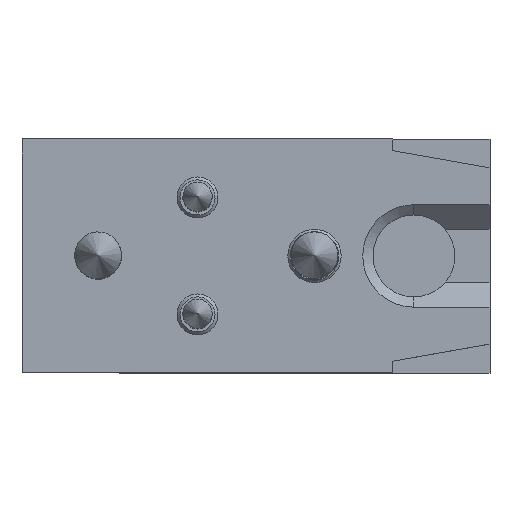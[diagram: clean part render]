
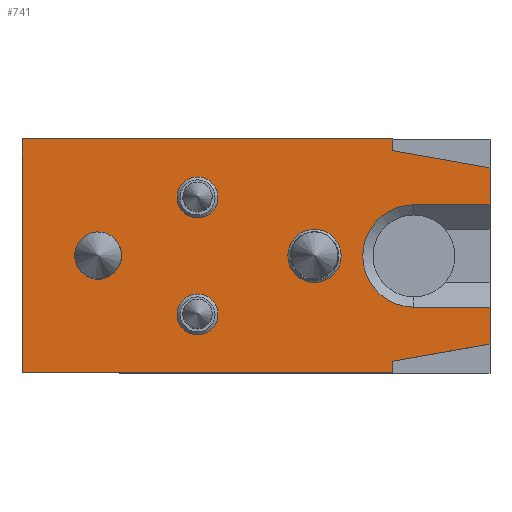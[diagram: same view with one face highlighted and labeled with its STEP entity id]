
A CAD part, top view. The second image highlights one B-rep face of the part: STEP entity #741.
In plain terms, the highlighted planar face has unit normal (0, 0, 1) as drawn and (0, 0, -1) by its records, which use the part's own axes.
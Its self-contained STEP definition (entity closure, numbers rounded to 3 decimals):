
#104=CIRCLE('',#861,8.75);
#105=CIRCLE('',#862,3.5);
#106=CIRCLE('',#863,3.5);
#107=CIRCLE('',#864,4.55);
#108=CIRCLE('',#865,4.);
#177=ORIENTED_EDGE('',*,*,#301,.F.);
#178=ORIENTED_EDGE('',*,*,#330,.T.);
#179=ORIENTED_EDGE('',*,*,#331,.T.);
#180=ORIENTED_EDGE('',*,*,#332,.T.);
#181=ORIENTED_EDGE('',*,*,#304,.F.);
#182=ORIENTED_EDGE('',*,*,#333,.T.);
#183=ORIENTED_EDGE('',*,*,#334,.T.);
#184=ORIENTED_EDGE('',*,*,#316,.F.);
#185=ORIENTED_EDGE('',*,*,#313,.F.);
#186=ORIENTED_EDGE('',*,*,#311,.F.);
#187=ORIENTED_EDGE('',*,*,#335,.T.);
#188=ORIENTED_EDGE('',*,*,#336,.T.);
#189=ORIENTED_EDGE('',*,*,#337,.T.);
#190=ORIENTED_EDGE('',*,*,#338,.T.);
#191=ORIENTED_EDGE('',*,*,#339,.T.);
#192=ORIENTED_EDGE('',*,*,#340,.T.);
#301=EDGE_CURVE('',#381,#382,#448,.T.);
#304=EDGE_CURVE('',#384,#385,#451,.T.);
#311=EDGE_CURVE('',#391,#392,#458,.T.);
#313=EDGE_CURVE('',#392,#393,#460,.T.);
#316=EDGE_CURVE('',#393,#395,#463,.T.);
#330=EDGE_CURVE('',#381,#405,#472,.T.);
#331=EDGE_CURVE('',#405,#406,#104,.T.);
#332=EDGE_CURVE('',#406,#385,#473,.T.);
#333=EDGE_CURVE('',#384,#407,#474,.T.);
#334=EDGE_CURVE('',#407,#395,#475,.T.);
#335=EDGE_CURVE('',#391,#408,#476,.T.);
#336=EDGE_CURVE('',#408,#382,#477,.T.);
#337=EDGE_CURVE('',#409,#409,#105,.T.);
#338=EDGE_CURVE('',#410,#410,#106,.T.);
#339=EDGE_CURVE('',#411,#411,#107,.T.);
#340=EDGE_CURVE('',#412,#412,#108,.T.);
#381=VERTEX_POINT('',#1209);
#382=VERTEX_POINT('',#1211);
#384=VERTEX_POINT('',#1217);
#385=VERTEX_POINT('',#1218);
#391=VERTEX_POINT('',#1231);
#392=VERTEX_POINT('',#1233);
#393=VERTEX_POINT('',#1237);
#395=VERTEX_POINT('',#1243);
#405=VERTEX_POINT('',#1269);
#406=VERTEX_POINT('',#1271);
#407=VERTEX_POINT('',#1274);
#408=VERTEX_POINT('',#1277);
#409=VERTEX_POINT('',#1280);
#410=VERTEX_POINT('',#1282);
#411=VERTEX_POINT('',#1284);
#412=VERTEX_POINT('',#1286);
#448=LINE('',#1210,#488);
#451=LINE('',#1216,#491);
#458=LINE('',#1232,#498);
#460=LINE('',#1236,#500);
#463=LINE('',#1242,#503);
#472=LINE('',#1268,#512);
#473=LINE('',#1272,#513);
#474=LINE('',#1273,#514);
#475=LINE('',#1275,#515);
#476=LINE('',#1276,#516);
#477=LINE('',#1278,#517);
#488=VECTOR('',#959,1000.);
#491=VECTOR('',#964,1000.);
#498=VECTOR('',#973,1000.);
#500=VECTOR('',#977,1000.);
#503=VECTOR('',#982,1000.);
#512=VECTOR('',#1005,1000.);
#513=VECTOR('',#1008,1000.);
#514=VECTOR('',#1009,1000.);
#515=VECTOR('',#1010,1000.);
#516=VECTOR('',#1011,1000.);
#517=VECTOR('',#1012,1000.);
#536=EDGE_LOOP('',(#177,#178,#179,#180,#181,#182,#183,#184,#185,#186,#187,
#188));
#537=EDGE_LOOP('',(#189));
#538=EDGE_LOOP('',(#190));
#539=EDGE_LOOP('',(#191));
#540=EDGE_LOOP('',(#192));
#627=FACE_BOUND('',#536,.T.);
#628=FACE_BOUND('',#537,.T.);
#629=FACE_BOUND('',#538,.T.);
#630=FACE_BOUND('',#539,.T.);
#631=FACE_BOUND('',#540,.T.);
#716=PLANE('',#860);
#741=ADVANCED_FACE('',(#627,#628,#629,#630,#631),#716,.F.);
#860=AXIS2_PLACEMENT_3D('',#1267,#1003,#1004);
#861=AXIS2_PLACEMENT_3D('',#1270,#1006,#1007);
#862=AXIS2_PLACEMENT_3D('',#1279,#1013,#1014);
#863=AXIS2_PLACEMENT_3D('',#1281,#1015,#1016);
#864=AXIS2_PLACEMENT_3D('',#1283,#1017,#1018);
#865=AXIS2_PLACEMENT_3D('',#1285,#1019,#1020);
#959=DIRECTION('',(0.,-1.,0.));
#964=DIRECTION('',(0.,-1.,0.));
#973=DIRECTION('',(1.,0.,0.));
#977=DIRECTION('',(0.,1.,0.));
#982=DIRECTION('',(-1.,0.,0.));
#1003=DIRECTION('',(0.,0.,1.));
#1004=DIRECTION('',(1.,0.,0.));
#1005=DIRECTION('',(1.,0.,0.));
#1006=DIRECTION('',(0.,0.,1.));
#1007=DIRECTION('',(1.,0.,0.));
#1008=DIRECTION('',(-1.,0.,0.));
#1009=DIRECTION('',(0.985,0.174,0.));
#1010=DIRECTION('',(0.,1.,0.));
#1011=DIRECTION('',(0.,1.,0.));
#1012=DIRECTION('',(-0.985,0.174,0.));
#1013=DIRECTION('',(0.,0.,1.));
#1014=DIRECTION('',(1.,0.,0.));
#1015=DIRECTION('',(0.,0.,1.));
#1016=DIRECTION('',(1.,0.,0.));
#1017=DIRECTION('',(0.,0.,1.));
#1018=DIRECTION('',(1.,0.,0.));
#1019=DIRECTION('',(0.,0.,1.));
#1020=DIRECTION('',(1.,0.,0.));
#1209=CARTESIAN_POINT('',(-40.,-8.75,0.));
#1210=CARTESIAN_POINT('',(-40.,20.,0.));
#1211=CARTESIAN_POINT('',(-40.,-15.071,0.));
#1216=CARTESIAN_POINT('',(-40.,20.,0.));
#1217=CARTESIAN_POINT('',(-40.,15.071,0.));
#1218=CARTESIAN_POINT('',(-40.,8.75,0.));
#1231=CARTESIAN_POINT('',(-23.391,-20.,0.));
#1232=CARTESIAN_POINT('',(-40.,-20.,0.));
#1233=CARTESIAN_POINT('',(40.,-20.,0.));
#1236=CARTESIAN_POINT('',(40.,-20.,0.));
#1237=CARTESIAN_POINT('',(40.,20.,0.));
#1242=CARTESIAN_POINT('',(40.,20.,0.));
#1243=CARTESIAN_POINT('',(-23.391,20.,0.));
#1267=CARTESIAN_POINT('',(-40.,-20.,0.));
#1268=CARTESIAN_POINT('',(-40.,-8.75,0.));
#1269=CARTESIAN_POINT('',(-27.,-8.75,0.));
#1270=CARTESIAN_POINT('',(-27.,0.,0.));
#1271=CARTESIAN_POINT('',(-27.,8.75,0.));
#1272=CARTESIAN_POINT('',(-40.,8.75,0.));
#1273=CARTESIAN_POINT('',(-45.998,14.014,0.));
#1274=CARTESIAN_POINT('',(-23.391,18.,0.));
#1275=CARTESIAN_POINT('',(-23.391,-20.,0.));
#1276=CARTESIAN_POINT('',(-23.391,-20.,0.));
#1277=CARTESIAN_POINT('',(-23.391,-18.,0.));
#1278=CARTESIAN_POINT('',(-39.157,-15.22,0.));
#1279=CARTESIAN_POINT('',(10.,10.,0.));
#1280=CARTESIAN_POINT('',(13.5,10.,0.));
#1281=CARTESIAN_POINT('',(10.,-10.,0.));
#1282=CARTESIAN_POINT('',(13.5,-10.,0.));
#1283=CARTESIAN_POINT('',(-10.,0.,0.));
#1284=CARTESIAN_POINT('',(-5.45,0.,0.));
#1285=CARTESIAN_POINT('',(27.,0.,0.));
#1286=CARTESIAN_POINT('',(31.,0.,0.));
